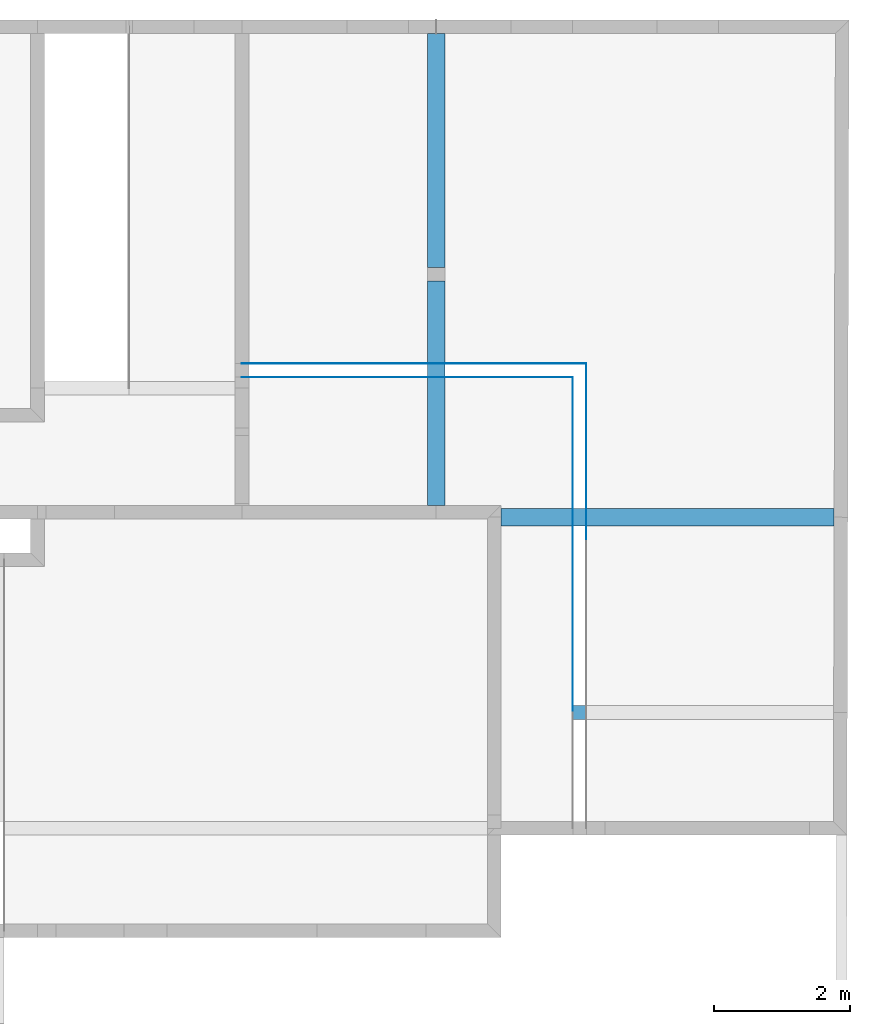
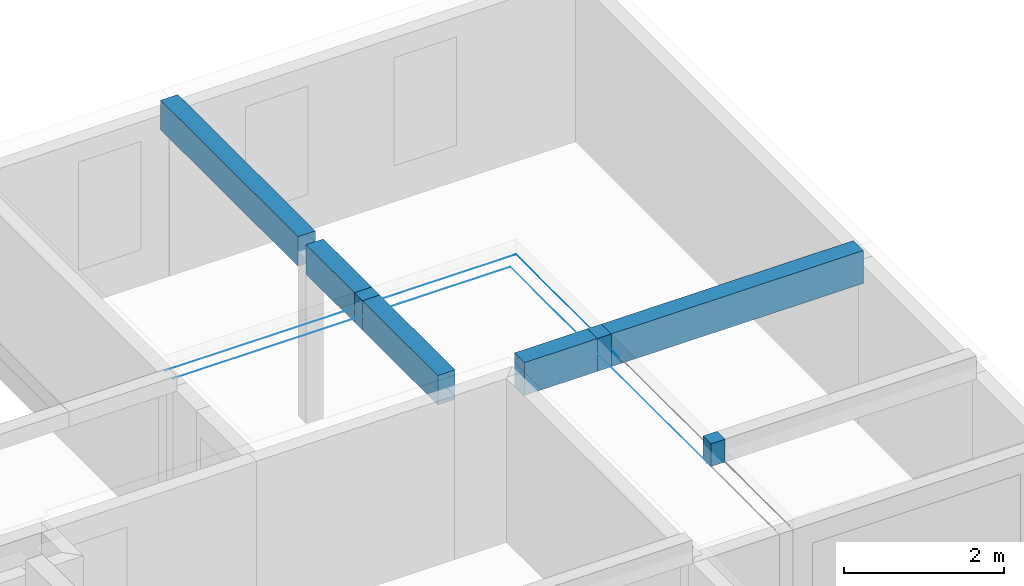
# One storey, part 2 of 8: 18 beams.
"""IFC2X3 building model written with IfcOpenShell, lengths in metres."""

from ifc_helpers import new_model, si_unit, direction, frame, origin_with_axes, place, context, subcontext, project, spatial, polyline, outline, extrude, material, type_object, element, save


model = new_model("IFC2X3")

# Units and contexts
model_context = context("Model", 3, precision=0.0001, world=origin_with_axes(), true_north=direction((0.0, 1.0)))
plan_context = context("Plan", 2, precision=0.0001, world=origin_with_axes(), true_north=direction((0.0, 1.0)))
body_context = subcontext(model_context, "Body", "Model", "MODEL_VIEW")
ifc_project = project(units=[si_unit("MASSUNIT", "GRAM", prefix="KILO"), si_unit("AREAUNIT", "SQUARE_METRE"), si_unit("LENGTHUNIT", "METRE"), si_unit("VOLUMEUNIT", "CUBIC_METRE")], contexts=[plan_context, model_context])

# Site, building, storey
site_placement = place(None, origin_with_axes())
site = spatial("IfcSite", under=ifc_project, at=site_placement, Name="$", CompositionType="ELEMENT")
building_placement = place(site_placement, origin_with_axes())
building = spatial("IfcBuilding", under=site, at=building_placement, Name="Classeur ENS Ensemble", CompositionType="ELEMENT")
storey_placement = place(building_placement, frame((-20.30778888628, -1.812671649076, 3.3), z_axis=(0.0, 0.0, 1.0), x_axis=(1.0, 0.0, 0.0)))
storey = spatial("IfcBuildingStorey", under=building, at=storey_placement, Name="002 R+1", CompositionType="ELEMENT", Elevation=3.3)

# Beams
ifc_material = material(Name="Default material")
beam_type = type_object("IfcBeamType", PredefinedType="BEAM")
beam_1_placement = place(storey_placement, frame((39.23648670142, -8.367282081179, 2.5), z_axis=(0.0, 0.0, 1.0), x_axis=(1.0, 0.0, 0.0)))
element("IfcBeam", 1, at=beam_1_placement, inside=storey, type_object=beam_type, material=ifc_material, Name="poutre BA 20 x 35", context=body_context, shape_type="SweptSolid", held_by="IfcProductRepresentation", body=[
    extrude(outline(polyline([(0.0, 0.1000000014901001), (0.0, 0.1000000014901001), (0.0, 0.1000000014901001), (0.2000000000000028, 0.1000000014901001), (0.2000000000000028, 0.1000000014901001), (0.2000000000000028, 0.1000000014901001), (0.2000000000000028, -0.1000000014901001), (0.2000000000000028, -0.1000000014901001), (0.2000000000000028, -0.1000000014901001), (0.0, -0.1000000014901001), (0.0, -0.1000000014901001), (0.0, -0.1000000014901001), (0.0, 0.1000000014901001)])), origin_with_axes(), (0.0, 0.0, 1.0), 0.3499999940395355),
])
beam_2_placement = place(storey_placement, frame((39.23648670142, -8.367282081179, 2.5), z_axis=(0.0, 0.0, 1.0), x_axis=(0.0, 0.9999999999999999, 0.0)))
element("IfcBeam", 2, at=beam_2_placement, inside=storey, type_object=beam_type, material=ifc_material, Name="poutre fictive 250", context=body_context, shape_type="SweptSolid", held_by="IfcProductRepresentation", body=[
    extrude(outline(polyline([(0.0, 0.0009999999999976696), (0.0, 0.0009999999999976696), (0.0, 0.0009999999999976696), (2.864956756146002, 0.0009999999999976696), (2.864956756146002, 0.0009999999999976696), (2.864956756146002, 0.0009999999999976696), (2.864956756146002, -0.0009999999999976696), (2.864956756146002, -0.0009999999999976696), (2.864956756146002, -0.0009999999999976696), (0.0, -0.0009999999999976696), (0.0, -0.0009999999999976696), (0.0, -0.0009999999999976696), (0.0, 0.0009999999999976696)])), origin_with_axes(), (0.0, 0.0, 1.0), 0.001),
])
beam_3_placement = place(storey_placement, frame((34.38339579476, -3.44736866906, 2.5), z_axis=(0.0, 0.0, 1.0), x_axis=(0.9999999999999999, 0.0, 0.0)))
element("IfcBeam", 3, at=beam_3_placement, inside=storey, type_object=beam_type, material=ifc_material, Name="poutre fictive 250", context=body_context, shape_type="SweptSolid", held_by="IfcProductRepresentation", body=[
    extrude(outline(polyline([(0.0, 0.00099999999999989), (0.0, 0.00099999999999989), (0.0, 0.00099999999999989), (2.849823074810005, 0.00099999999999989), (2.849823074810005, 0.00099999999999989), (2.849823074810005, 0.00099999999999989), (2.849823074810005, -0.00099999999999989), (2.849823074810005, -0.00099999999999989), (2.849823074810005, -0.00099999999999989), (0.0, -0.00099999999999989), (0.0, -0.00099999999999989), (0.0, -0.00099999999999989), (0.0, 0.00099999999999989)])), origin_with_axes(), (0.0, 0.0, 1.0), 0.001),
])
beam_4_placement = place(storey_placement, frame((37.23321886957, -5.427325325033, 2.279999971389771), z_axis=(0.0, 0.0, 1.0), x_axis=(0.0, 1.0, 0.0)))
element("IfcBeam", 4, at=beam_4_placement, inside=storey, type_object=beam_type, material=ifc_material, Name="poutre BA 25 x 45", context=body_context, shape_type="SweptSolid", held_by="IfcProductRepresentation", body=[
    extrude(outline(polyline([(0.1000000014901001, 0.125), (0.1000000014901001, 0.125), (0.1000000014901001, 0.125), (1.979956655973, 0.125), (1.979956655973, 0.125), (1.979956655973, 0.125), (1.979956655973, -0.125), (1.979956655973, -0.125), (1.979956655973, -0.125), (0.1000000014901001, -0.125), (0.1000000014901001, -0.125), (0.1000000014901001, -0.125), (0.1000000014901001, 0.125)])), origin_with_axes(), (0.0, 0.0, 1.0), 0.449999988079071),
])
beam_5_placement = place(storey_placement, frame((37.23321886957, -3.44736866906, 2.5), z_axis=(0.0, 0.0, 1.0), x_axis=(1.0, 0.0, 0.0)))
element("IfcBeam", 5, at=beam_5_placement, inside=storey, type_object=beam_type, material=ifc_material, Name="poutre fictive 250", context=body_context, shape_type="SweptSolid", held_by="IfcProductRepresentation", body=[
    extrude(outline(polyline([(0.0, 0.0009999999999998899), (0.0, 0.0009999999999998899), (0.0, 0.0009999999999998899), (2.003267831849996, 0.0009999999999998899), (2.003267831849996, 0.0009999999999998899), (2.003267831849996, 0.0009999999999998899), (2.003267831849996, -0.0009999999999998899), (2.003267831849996, -0.0009999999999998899), (2.003267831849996, -0.0009999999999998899), (0.0, -0.0009999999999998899), (0.0, -0.0009999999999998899), (0.0, -0.0009999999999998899), (0.0, 0.0009999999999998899)])), origin_with_axes(), (0.0, 0.0, 1.0), 0.001),
])
beam_6_placement = place(storey_placement, frame((37.23321886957, -3.44736866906, 2.279999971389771), z_axis=(0.0, 0.0, 1.0), x_axis=(0.0, 1.0, 0.0)))
element("IfcBeam", 6, at=beam_6_placement, inside=storey, type_object=beam_type, material=ifc_material, Name="poutre BA 25 x 45", context=body_context, shape_type="SweptSolid", held_by="IfcProductRepresentation", body=[
    extrude(outline(polyline([(0.0, 0.125), (0.0, 0.125), (0.0, 0.125), (0.2000000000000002, 0.125), (0.2000000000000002, 0.125), (0.2000000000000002, 0.125), (0.2000000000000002, -0.125), (0.2000000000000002, -0.125), (0.2000000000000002, -0.125), (0.0, -0.125), (0.0, -0.125), (0.0, -0.125), (0.0, 0.125)])), origin_with_axes(), (0.0, 0.0, 1.0), 0.449999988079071),
])
beam_7_placement = place(storey_placement, frame((37.23320596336, 1.692674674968, 2.279999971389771), z_axis=(0.0, 0.0, 1.0), x_axis=(5.377664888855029e-05, -0.9999999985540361, 0.0)))
element("IfcBeam", 7, at=beam_7_placement, inside=storey, type_object=beam_type, material=ifc_material, Name="poutre BA 25 x 45", context=body_context, shape_type="SweptSolid", held_by="IfcProductRepresentation", body=[
    extrude(outline(polyline([(0.1000067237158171, 0.125000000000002), (0.1000067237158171, 0.125000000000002), (0.1000067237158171, 0.125000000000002), (3.529993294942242, 0.1250000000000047), (3.529993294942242, 0.1250000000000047), (3.529993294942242, 0.1250000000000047), (3.529993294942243, -0.1250000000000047), (3.529993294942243, -0.1250000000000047), (3.529993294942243, -0.1250000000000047), (0.09999327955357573, -0.1250000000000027), (0.09999327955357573, -0.1250000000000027), (0.09999327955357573, -0.1250000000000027), (0.1000067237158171, 0.125000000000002)])), origin_with_axes(), (0.0, 0.0, 1.0), 0.449999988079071),
])
beam_8_placement = place(storey_placement, frame((38.08339579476, -5.502325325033, 2.230000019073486), z_axis=(0.0, 0.0, 1.0), x_axis=(1.0, 0.0, 0.0)))
element("IfcBeam", 8, at=beam_8_placement, inside=storey, type_object=beam_type, material=ifc_material, Name="poutre BA 25 x 50", context=body_context, shape_type="SweptSolid", held_by="IfcProductRepresentation", body=[
    extrude(outline(polyline([(0.1000000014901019, 0.125), (0.1000000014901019, 0.125), (0.1000000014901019, 0.125), (1.153090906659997, 0.125), (1.153090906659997, 0.125), (1.153090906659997, 0.125), (1.153090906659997, -0.125), (1.153090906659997, -0.125), (1.153090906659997, -0.125), (0.1000000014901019, -0.125), (0.1000000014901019, -0.125), (0.1000000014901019, -0.125), (0.1000000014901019, 0.125)])), origin_with_axes(), (0.0, 0.0, 1.0), 0.5),
])
beam_9_placement = place(storey_placement, frame((39.23648670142, -5.502325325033, 2.5), z_axis=(0.0, 0.0, 1.0), x_axis=(0.0, 1.0, 0.0)))
element("IfcBeam", 9, at=beam_9_placement, inside=storey, type_object=beam_type, material=ifc_material, Name="poutre fictive 250", context=body_context, shape_type="SweptSolid", held_by="IfcProductRepresentation", body=[
    extrude(outline(polyline([(0.0, 0.0009999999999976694), (0.0, 0.0009999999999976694), (0.0, 0.0009999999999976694), (2.054956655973, 0.0009999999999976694), (2.054956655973, 0.0009999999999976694), (2.054956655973, 0.0009999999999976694), (2.054956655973, -0.0009999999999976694), (2.054956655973, -0.0009999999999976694), (2.054956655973, -0.0009999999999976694), (0.0, -0.0009999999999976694), (0.0, -0.0009999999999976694), (0.0, -0.0009999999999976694), (0.0, 0.0009999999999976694)])), origin_with_axes(), (0.0, 0.0, 1.0), 0.001),
])
beam_10_placement = place(storey_placement, frame((39.43630031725, -3.24736866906, 2.5), z_axis=(0.0, 0.0, 1.0), x_axis=(7.225568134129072e-05, -0.9999999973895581, 0.0)))
element("IfcBeam", 10, at=beam_10_placement, inside=storey, type_object=beam_type, material=ifc_material, Name="poutre fictive 250", context=body_context, shape_type="SweptSolid", held_by="IfcProductRepresentation", body=[
    extrude(outline(polyline([(-9.677265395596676e-17, 0.001000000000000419), (-9.677265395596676e-17, 0.001000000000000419), (-9.677265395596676e-17, 0.001000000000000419), (2.254956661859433, 0.0009999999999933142), (2.254956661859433, 0.0009999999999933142), (2.254956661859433, 0.0009999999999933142), (2.254956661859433, -0.001000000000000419), (2.254956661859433, -0.001000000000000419), (2.254956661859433, -0.001000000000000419), (9.677265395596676e-17, -0.001000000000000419), (9.677265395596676e-17, -0.001000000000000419), (9.677265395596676e-17, -0.001000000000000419), (-9.677265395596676e-17, 0.001000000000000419)])), origin_with_axes(), (0.0, 0.0, 1.0), 0.001),
])
beam_11_placement = place(storey_placement, frame((39.43646325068, -5.502325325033, 2.5), z_axis=(0.0, 0.0, 1.0), x_axis=(7.225570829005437e-05, -0.9999999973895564, 0.0)))
element("IfcBeam", 11, at=beam_11_placement, inside=storey, type_object=beam_type, material=ifc_material, Name="poutre fictive 250", context=body_context, shape_type="SweptSolid", held_by="IfcProductRepresentation", body=[
    extrude(outline(polyline([(1.094303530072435e-15, 0.000999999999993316), (1.094303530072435e-15, 0.000999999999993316), (1.094303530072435e-15, 0.000999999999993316), (0.3245520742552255, 0.000999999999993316), (0.3245520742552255, 0.000999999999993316), (0.3245520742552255, 0.000999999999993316), (0.324552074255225, -0.001000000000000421), (0.324552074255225, -0.001000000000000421), (0.324552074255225, -0.001000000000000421), (-2.066385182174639e-16, -0.001000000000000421), (-2.066385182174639e-16, -0.001000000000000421), (-2.066385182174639e-16, -0.001000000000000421), (1.094303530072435e-15, 0.000999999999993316)])), origin_with_axes(), (0.0, 0.0, 1.0), 0.001),
])
beam_12_placement = place(storey_placement, frame((39.43648670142, -5.826877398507, 2.5), z_axis=(0.0, 0.0, 1.0), x_axis=(0.0, 1.0, 0.0)))
element("IfcBeam", 12, at=beam_12_placement, inside=storey, type_object=beam_type, material=ifc_material, Name="poutre fictive 250", context=body_context, shape_type="SweptSolid", held_by="IfcProductRepresentation", body=[
    extrude(outline(polyline([(0.0, 0.001000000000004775), (0.0, 0.001000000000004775), (0.0, 0.001000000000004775), (0.3245520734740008, 0.001000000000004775), (0.3245520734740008, 0.001000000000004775), (0.3245520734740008, 0.001000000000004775), (0.3245520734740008, -0.0009999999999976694), (0.3245520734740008, -0.0009999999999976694), (0.3245520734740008, -0.0009999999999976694), (0.0, -0.0009999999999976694), (0.0, -0.0009999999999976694), (0.0, -0.0009999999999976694), (0.0, 0.001000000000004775)])), origin_with_axes(), (0.0, 0.0, 1.0), 0.001),
])
beam_13_placement = place(storey_placement, frame((36.99367779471, -3.24736866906, 2.5), z_axis=(0.0, 0.0, 1.0), x_axis=(1.0, 0.0, 0.0)))
element("IfcBeam", 13, at=beam_13_placement, inside=storey, type_object=beam_type, material=ifc_material, Name="poutre fictive 250", context=body_context, shape_type="SweptSolid", held_by="IfcProductRepresentation", body=[
    extrude(outline(polyline([(0.0, 0.0009999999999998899), (0.0, 0.0009999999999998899), (0.0, 0.0009999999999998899), (0.2395410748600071, 0.0009999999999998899), (0.2395410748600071, 0.0009999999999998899), (0.2395410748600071, 0.0009999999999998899), (0.2395410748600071, -0.001000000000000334), (0.2395410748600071, -0.001000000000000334), (0.2395410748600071, -0.001000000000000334), (0.0, -0.001000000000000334), (0.0, -0.001000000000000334), (0.0, -0.001000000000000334), (0.0, 0.0009999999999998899)])), origin_with_axes(), (0.0, 0.0, 1.0), 0.001),
])
beam_14_placement = place(storey_placement, frame((37.23321886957, -3.24736866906, 2.279999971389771), z_axis=(0.0, 0.0, 1.0), x_axis=(0.0, 1.0, 0.0)))
element("IfcBeam", 14, at=beam_14_placement, inside=storey, type_object=beam_type, material=ifc_material, Name="poutre BA 25 x 45", context=body_context, shape_type="SweptSolid", held_by="IfcProductRepresentation", body=[
    extrude(outline(polyline([(0.0, 0.125), (0.0, 0.125), (0.0, 0.125), (1.210043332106, 0.125), (1.210043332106, 0.125), (1.210043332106, 0.125), (1.210043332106, -0.125), (1.210043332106, -0.125), (1.210043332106, -0.125), (0.0, -0.125), (0.0, -0.125), (0.0, -0.125), (0.0, 0.125)])), origin_with_axes(), (0.0, 0.0, 1.0), 0.449999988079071),
])
beam_15_placement = place(storey_placement, frame((37.23321886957, -3.24736866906, 2.5), z_axis=(0.0, 0.0, 1.0), x_axis=(1.0, 0.0, 0.0)))
element("IfcBeam", 15, at=beam_15_placement, inside=storey, type_object=beam_type, material=ifc_material, Name="poutre fictive 250", context=body_context, shape_type="SweptSolid", held_by="IfcProductRepresentation", body=[
    extrude(outline(polyline([(0.0, 0.0009999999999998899), (0.0, 0.0009999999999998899), (0.0, 0.0009999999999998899), (2.203081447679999, 0.0009999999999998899), (2.203081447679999, 0.0009999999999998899), (2.203081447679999, 0.0009999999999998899), (2.203081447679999, -0.001000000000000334), (2.203081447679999, -0.001000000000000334), (2.203081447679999, -0.001000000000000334), (0.0, -0.001000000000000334), (0.0, -0.001000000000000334), (0.0, -0.001000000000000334), (0.0, 0.0009999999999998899)])), origin_with_axes(), (0.0, 0.0, 1.0), 0.001),
])
beam_16_placement = place(storey_placement, frame((34.38339579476, -3.24736866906, 2.5), z_axis=(0.0, 0.0, 1.0), x_axis=(0.9999999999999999, 0.0, 0.0)))
element("IfcBeam", 16, at=beam_16_placement, inside=storey, type_object=beam_type, material=ifc_material, Name="poutre fictive 250", context=body_context, shape_type="SweptSolid", held_by="IfcProductRepresentation", body=[
    extrude(outline(polyline([(0.0, 0.00099999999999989), (0.0, 0.00099999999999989), (0.0, 0.00099999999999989), (2.610281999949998, 0.00099999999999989), (2.610281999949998, 0.00099999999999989), (2.610281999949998, 0.00099999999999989), (2.610281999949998, -0.001000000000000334), (2.610281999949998, -0.001000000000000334), (2.610281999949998, -0.001000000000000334), (0.0, -0.001000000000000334), (0.0, -0.001000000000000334), (0.0, -0.001000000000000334), (0.0, 0.00099999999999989)])), origin_with_axes(), (0.0, 0.0, 1.0), 0.001),
])
beam_17_placement = place(storey_placement, frame((39.23648670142, -5.502325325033, 2.230000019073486), z_axis=(0.0, 0.0, 1.0), x_axis=(0.9999999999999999, 0.0, 0.0)))
element("IfcBeam", 17, at=beam_17_placement, inside=storey, type_object=beam_type, material=ifc_material, Name="poutre BA 25 x 50", context=body_context, shape_type="SweptSolid", held_by="IfcProductRepresentation", body=[
    extrude(outline(polyline([(0.0, 0.125), (0.0, 0.125), (0.0, 0.125), (0.1999765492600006, 0.125), (0.1999765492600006, 0.125), (0.1999765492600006, 0.125), (0.1999765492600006, -0.125), (0.1999765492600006, -0.125), (0.1999765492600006, -0.125), (0.0, -0.125), (0.0, -0.125), (0.0, -0.125), (0.0, 0.125)])), origin_with_axes(), (0.0, 0.0, 1.0), 0.5),
])
beam_18_placement = place(storey_placement, frame((39.43646325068, -5.502325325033, 2.230000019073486), z_axis=(0.0, 0.0, 1.0), x_axis=(1.0, 0.0, 0.0)))
element("IfcBeam", 18, at=beam_18_placement, inside=storey, type_object=beam_type, material=ifc_material, Name="poutre BA 25 x 50", context=body_context, shape_type="SweptSolid", held_by="IfcProductRepresentation", body=[
    extrude(outline(polyline([(0.0, 0.125), (0.0, 0.125), (0.0, 0.125), (3.634415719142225, 0.1249999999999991), (3.634415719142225, 0.1249999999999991), (3.634415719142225, 0.1249999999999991), (3.633779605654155, -0.125), (3.633779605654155, -0.125), (3.633779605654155, -0.125), (0.0, -0.125), (0.0, -0.125), (0.0, -0.125), (0.0, 0.125)])), origin_with_axes(), (0.0, 0.0, 1.0), 0.5),
])

save(model, "model.ifc")
